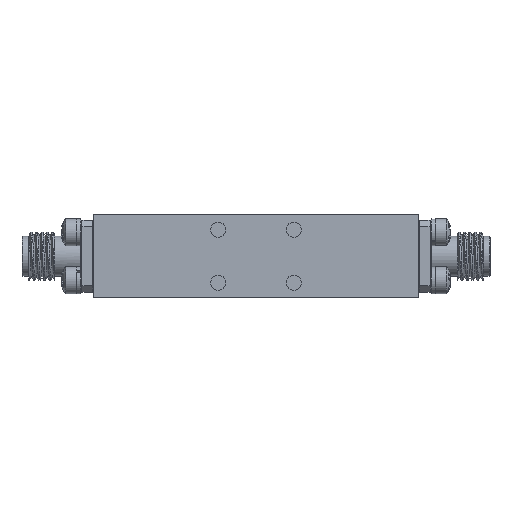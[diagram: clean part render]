
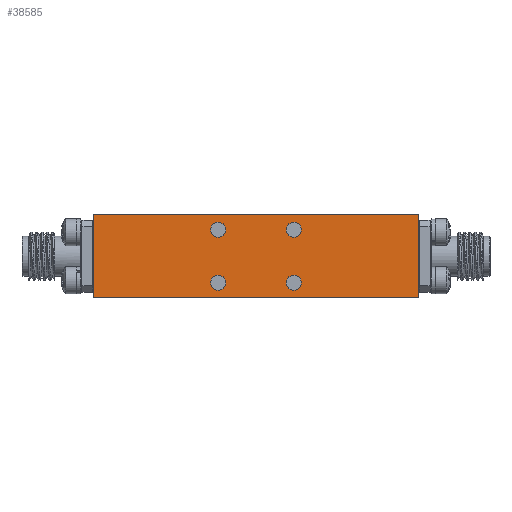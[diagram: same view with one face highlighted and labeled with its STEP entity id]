
A CAD part, front view. The second image highlights one B-rep face of the part: STEP entity #38585.
In plain terms, the highlighted planar face has unit normal (0, -1, 0).
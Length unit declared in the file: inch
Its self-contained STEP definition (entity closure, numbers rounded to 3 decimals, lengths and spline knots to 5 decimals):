
#635 = CARTESIAN_POINT ( 'NONE',  ( 37.54109, 39.70754, 40.46722 ) ) ;
#1234 = FACE_BOUND ( 'NONE', #19418, .T. ) ;
#2764 = AXIS2_PLACEMENT_3D ( 'NONE', #3904, #39239, #22355 ) ;
#3198 = DIRECTION ( 'NONE',  ( 0., 0., 1. ) ) ;
#3238 = CARTESIAN_POINT ( 'NONE',  ( 37.73809, 39.70754, 40.32922 ) ) ;
#3683 = EDGE_CURVE ( 'NONE', #21137, #50424, #31104, .T. ) ;
#3904 = CARTESIAN_POINT ( 'NONE',  ( 37.34409, 39.70754, 40.60522 ) ) ;
#4924 = VERTEX_POINT ( 'NONE', #45618 ) ;
#6159 = VERTEX_POINT ( 'NONE', #42325 ) ;
#7348 = VECTOR ( 'NONE', #8522, 39.37008 ) ;
#8522 = DIRECTION ( 'NONE',  ( 0., 0., -1. ) ) ;
#8945 = DIRECTION ( 'NONE',  ( 1., 0., 0. ) ) ;
#9865 = VECTOR ( 'NONE', #3198, 39.37008 ) ;
#11143 = AXIS2_PLACEMENT_3D ( 'NONE', #37210, #38083, #52637 ) ;
#14777 = EDGE_LOOP ( 'NONE', ( #44594 ) ) ;
#14853 = AXIS2_PLACEMENT_3D ( 'NONE', #3238, #22581, #45068 ) ;
#15318 = VERTEX_POINT ( 'NONE', #19177 ) ;
#16822 = VECTOR ( 'NONE', #39443, 39.37008 ) ;
#17487 = CARTESIAN_POINT ( 'NONE',  ( 36.69459, 39.70754, 40.25072 ) ) ;
#18753 = DIRECTION ( 'NONE',  ( 0., 0., 1. ) ) ;
#19047 = FACE_OUTER_BOUND ( 'NONE', #31513, .T. ) ;
#19177 = CARTESIAN_POINT ( 'NONE',  ( 37.73809, 39.70754, 40.56587 ) ) ;
#19418 = EDGE_LOOP ( 'NONE', ( #42511 ) ) ;
#21137 = VERTEX_POINT ( 'NONE', #39585 ) ;
#21324 = ORIENTED_EDGE ( 'NONE', *, *, #36472, .F. ) ;
#22355 = DIRECTION ( 'NONE',  ( 0., 0., -1. ) ) ;
#22498 = CIRCLE ( 'NONE', #14853, 0.03935 ) ;
#22581 = DIRECTION ( 'NONE',  ( 0., -1., 0. ) ) ;
#23073 = ORIENTED_EDGE ( 'NONE', *, *, #31461, .F. ) ;
#23253 = EDGE_CURVE ( 'NONE', #32879, #4924, #24417, .T. ) ;
#24107 = CARTESIAN_POINT ( 'NONE',  ( 37.73809, 39.70754, 40.60522 ) ) ;
#24254 = EDGE_LOOP ( 'NONE', ( #23073 ) ) ;
#24417 = LINE ( 'NONE', #44170, #9865 ) ;
#24478 = CARTESIAN_POINT ( 'NONE',  ( 37.73809, 39.70754, 40.28987 ) ) ;
#25679 = ORIENTED_EDGE ( 'NONE', *, *, #23253, .F. ) ;
#26550 = ORIENTED_EDGE ( 'NONE', *, *, #3683, .F. ) ;
#28394 = CIRCLE ( 'NONE', #2764, 0.03935 ) ;
#28868 = DIRECTION ( 'NONE',  ( 0., 1., 0. ) ) ;
#29653 = EDGE_CURVE ( 'NONE', #4924, #21137, #54087, .T. ) ;
#29867 = CARTESIAN_POINT ( 'NONE',  ( 36.69459, 39.70754, 40.25072 ) ) ;
#30445 = CARTESIAN_POINT ( 'NONE',  ( 37.34409, 39.70754, 40.28987 ) ) ;
#31104 = LINE ( 'NONE', #36139, #7348 ) ;
#31461 = EDGE_CURVE ( 'NONE', #6159, #6159, #28394, .T. ) ;
#31513 = EDGE_LOOP ( 'NONE', ( #25679, #56440, #26550, #38528 ) ) ;
#31754 = EDGE_CURVE ( 'NONE', #15318, #15318, #45470, .T. ) ;
#32145 = FACE_BOUND ( 'NONE', #14777, .T. ) ;
#32879 = VERTEX_POINT ( 'NONE', #29867 ) ;
#32920 = VECTOR ( 'NONE', #8945, 39.37008 ) ;
#33029 = FACE_BOUND ( 'NONE', #46125, .T. ) ;
#33387 = VERTEX_POINT ( 'NONE', #24478 ) ;
#36139 = CARTESIAN_POINT ( 'NONE',  ( 38.38759, 39.70754, 40.25072 ) ) ;
#36472 = EDGE_CURVE ( 'NONE', #53025, #53025, #43323, .T. ) ;
#36595 = FACE_BOUND ( 'NONE', #24254, .T. ) ;
#37210 = CARTESIAN_POINT ( 'NONE',  ( 37.34409, 39.70754, 40.32922 ) ) ;
#38083 = DIRECTION ( 'NONE',  ( 0., -1., 0. ) ) ;
#38528 = ORIENTED_EDGE ( 'NONE', *, *, #29653, .F. ) ;
#38585 = ADVANCED_FACE ( 'NONE', ( #33029, #32145, #1234, #36595, #19047 ), #41621, .F. ) ;
#39239 = DIRECTION ( 'NONE',  ( 0., -1., 0. ) ) ;
#39443 = DIRECTION ( 'NONE',  ( -1., 0., 0. ) ) ;
#39585 = CARTESIAN_POINT ( 'NONE',  ( 38.38759, 39.70754, 40.68372 ) ) ;
#41621 = PLANE ( 'NONE',  #52153 ) ;
#42325 = CARTESIAN_POINT ( 'NONE',  ( 37.34409, 39.70754, 40.56587 ) ) ;
#42511 = ORIENTED_EDGE ( 'NONE', *, *, #46911, .F. ) ;
#43323 = CIRCLE ( 'NONE', #11143, 0.03935 ) ;
#44170 = CARTESIAN_POINT ( 'NONE',  ( 36.69459, 39.70754, 40.25072 ) ) ;
#44594 = ORIENTED_EDGE ( 'NONE', *, *, #31754, .F. ) ;
#45068 = DIRECTION ( 'NONE',  ( 0., 0., -1. ) ) ;
#45470 = CIRCLE ( 'NONE', #46425, 0.03935 ) ;
#45618 = CARTESIAN_POINT ( 'NONE',  ( 36.69459, 39.70754, 40.68372 ) ) ;
#45991 = EDGE_CURVE ( 'NONE', #50424, #32879, #53723, .T. ) ;
#46125 = EDGE_LOOP ( 'NONE', ( #21324 ) ) ;
#46425 = AXIS2_PLACEMENT_3D ( 'NONE', #24107, #56433, #51708 ) ;
#46911 = EDGE_CURVE ( 'NONE', #33387, #33387, #22498, .T. ) ;
#50424 = VERTEX_POINT ( 'NONE', #55674 ) ;
#51708 = DIRECTION ( 'NONE',  ( 0., 0., -1. ) ) ;
#52153 = AXIS2_PLACEMENT_3D ( 'NONE', #635, #28868, #18753 ) ;
#52637 = DIRECTION ( 'NONE',  ( 0., 0., -1. ) ) ;
#53025 = VERTEX_POINT ( 'NONE', #30445 ) ;
#53504 = CARTESIAN_POINT ( 'NONE',  ( 36.69459, 39.70754, 40.68372 ) ) ;
#53723 = LINE ( 'NONE', #17487, #16822 ) ;
#54087 = LINE ( 'NONE', #53504, #32920 ) ;
#55674 = CARTESIAN_POINT ( 'NONE',  ( 38.38759, 39.70754, 40.25072 ) ) ;
#56433 = DIRECTION ( 'NONE',  ( 0., -1., 0. ) ) ;
#56440 = ORIENTED_EDGE ( 'NONE', *, *, #45991, .F. ) ;
